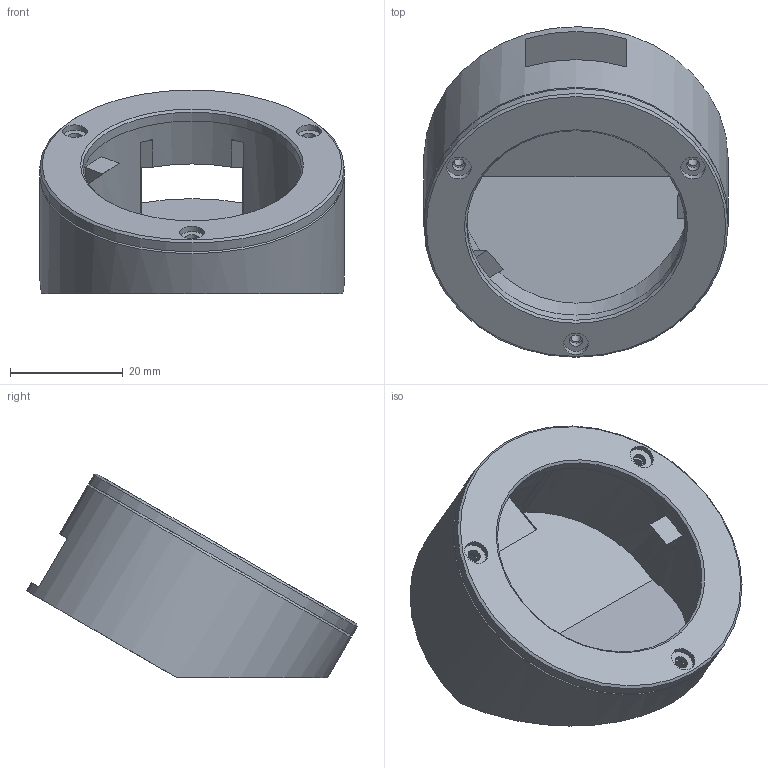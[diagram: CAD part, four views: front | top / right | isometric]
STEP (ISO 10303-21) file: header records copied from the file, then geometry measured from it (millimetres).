
FILE_DESCRIPTION(('Open CASCADE Model'),'2;1');
FILE_NAME('Open CASCADE Shape Model','2026-11-04T17:15:18',('Author'),( 'Open CASCADE'),'Open CASCADE STEP processor 7.9','Open CASCADE 7.9' ,'Unknown');
FILE_SCHEMA(('AUTOMOTIVE_DESIGN { 1 0 10303 214 1 1 1 1 }'));
Length unit declared in the file: millimetre
Products named in the file (3): Dotty-Parallel-Back-Puck; body; bezel
Assembly tree (2 placements, depth 2):
  Dotty-Parallel-Back-Puck
    body
    bezel
Bounding box: 54 x 58.66 x 36.21 mm (x, y, z)
Volume: 19229.2 mm3; surface area: 13181.4 mm2
Topology: 2 solids, 2 shells, 54 faces, 123 edges, 81 vertices
Faces by surface type: plane 38, cylinder 13, cone 3
Full cylindrical faces by diameter (mm): 1.7 x3, 2.3 x3, 4.4 x3, 38.8 x1, 44 x1, 54 x2
Entity records: 3291 total; most frequent: CARTESIAN_POINT 781, DIRECTION 454, ORIENTED_EDGE 246, PCURVE 246, DEFINITIONAL_REPRESENTATION 246, LINE 218, VECTOR 218, EDGE_CURVE 123
